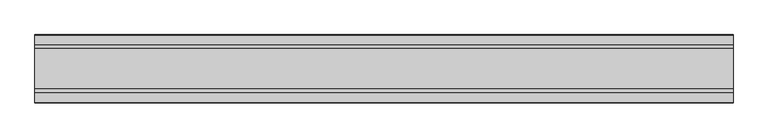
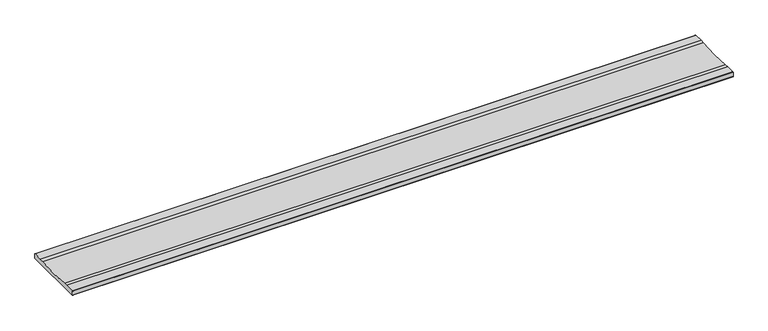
"""IFC4 building model written with IfcOpenShell, lengths in millimetres: proxy geometry, Muestra 3.16m_367 : Muestra 3.16m_367."""

from ifc_helpers import new_model, si_unit, point, frame, frame_2d, origin, place, context, project, spatial, polyline, circle_curve, trimmed, segment, composite_curve, outline, extrude, source, transform, mapped, element, save


def generic_models_8b6e8294(model_context):
    return source(origin(), model_context, "Body", "SweptSolid", [
        extrude(outline(composite_curve([segment(polyline([(28689.1985718, 0.0), (28733.3691398, 0.0)]), True, "CONTINUOUS"), segment(trimmed(circle_curve(frame_2d((28722.4215902, -279.5348273)), 279.749117), [point((28733.3691398, 0.0))], [point((28751.3933246, -1.2899583))], False, "CARTESIAN"), True, "CONTINUOUS"), segment(trimmed(circle_curve(frame_2d((28842.7718113, 821.3957011)), 827.744962), [point((28751.3933246, -1.2899583))], [point((28934.0288472, -1.3034392))], True, "CARTESIAN"), True, "CONTINUOUS"), segment(trimmed(circle_curve(frame_2d((28958.9681816, -217.4305784)), 217.5612803), [point((28934.0288472, -1.3034392))], [point((28951.4280038, 0.0))], False, "CARTESIAN"), True, "CONTINUOUS"), segment(polyline([(28951.4280038, 0.0), (28995.5985718, 0.0)]), True, "CONTINUOUS"), segment(trimmed(circle_curve(frame_2d((28995.5985718, -1.8)), 1.8), [point((28995.5985718, 0.0))], [point((28997.3985718, -1.8))], False, "CARTESIAN"), True, "CONTINUOUS"), segment(polyline([(28997.3985718, -1.8), (28997.3985718, -22.2)]), True, "CONTINUOUS"), segment(trimmed(circle_curve(frame_2d((28995.5985718, -22.2)), 1.8), [point((28997.3985718, -22.2))], [point((28995.5985718, -24.0))], False, "CARTESIAN"), True, "CONTINUOUS"), segment(polyline([(28995.5985718, -24.0), (28689.1985718, -24.0)]), True, "CONTINUOUS"), segment(trimmed(circle_curve(frame_2d((28689.1985718, -22.2)), 1.8), [point((28689.1985718, -24.0))], [point((28687.3985718, -22.2))], False, "CARTESIAN"), True, "CONTINUOUS"), segment(polyline([(28687.3985718, -22.2), (28687.3985718, -1.8)]), True, "CONTINUOUS"), segment(trimmed(circle_curve(frame_2d((28689.1985718, -1.8)), 1.8), [point((28687.3985718, -1.8))], [point((28689.1985718, 0.0))], False, "CARTESIAN"), True, "CONTINUOUS")], self_intersect=False)), frame((47947.4902513, 0.0, 0.0), z_axis=(1.0, 0.0, 0.0), x_axis=(0.0, 1.0, 0.0)), (0.0, 0.0, 1.0), 3160.0),
    ])


if __name__ == "__main__":
    model = new_model("IFC4")
    model_context = context("Model", 3, world=origin())
    ifc_project = project(units=[si_unit("LENGTHUNIT", "METRE", prefix="MILLI")], contexts=[model_context])
    site = spatial("IfcSite", under=ifc_project)
    building = spatial("IfcBuilding", under=site)
    placement = place(None, origin())
    generic_models_shape = generic_models_8b6e8294(model_context)
    element("IfcBuildingElementProxy", 1, Name="Muestra 3.16m_367 : Muestra 3.16m_367", ObjectType="Muestra 3.16m_367 : Muestra 3.16m_367", at=placement, inside=building, context=model_context, shape_type="MappedRepresentation", body=[
        mapped(generic_models_shape, transform((0.0, 0.0, 0.0), x_axis=(1.0, 0.0, 0.0), y_axis=(0.0, 1.0, 0.0), z_axis=(0.0, 0.0, 1.0))),
    ])
    save(model, "model.ifc")
